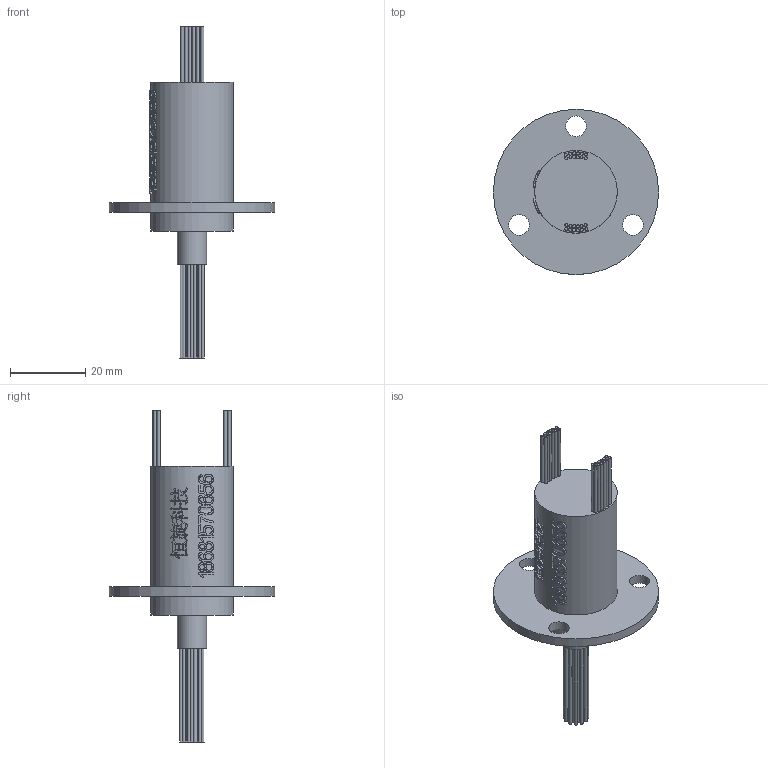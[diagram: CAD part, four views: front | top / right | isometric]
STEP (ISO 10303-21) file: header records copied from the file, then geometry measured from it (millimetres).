
FILE_DESCRIPTION(/* description */ (''),/* implementation_level */ '2;1');
FILE_NAME(/* name */ 'HM022-24.stp',/* time_stamp */ '2025-09-23T10:22:40+08:00',/* author */ (''),/* organization */ (''),/* preprocessor_version */ 'ST-DEVELOPER v16.7',/* originating_system */ 'SIEMENS PLM Software NX 12.0',/* authorisation */ '');
FILE_SCHEMA (('AUTOMOTIVE_DESIGN { 1 0 10303 214 3 1 1 1 }'));
Length unit declared in the file: millimetre
Products named in the file (1): Admi3294BFCC0mqi
Bounding box: 44 x 44 x 88.4 mm (x, y, z)
Volume: 18738.8 mm3; surface area: 9148.8 mm2
Topology: 1 solids, 1 shells, 649 faces, 1661 edges, 1108 vertices
Faces by surface type: extrusion 311, plane 240, cylinder 72, bspline 26
Full cylindrical faces by diameter (mm): 0.8 x54, 5.5 x3, 7.8 x1, 22 x2, 44 x1
Entity records: 24875 total; most frequent: CARTESIAN_POINT 11593, ORIENTED_EDGE 3196, EDGE_CURVE 1598, B_SPLINE_CURVE_WITH_KNOTS 1557, DIRECTION 1543, VERTEX_POINT 1106, EDGE_LOOP 810, ADVANCED_FACE 649
